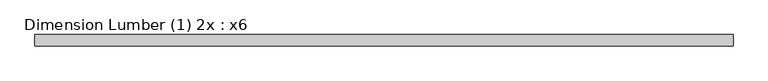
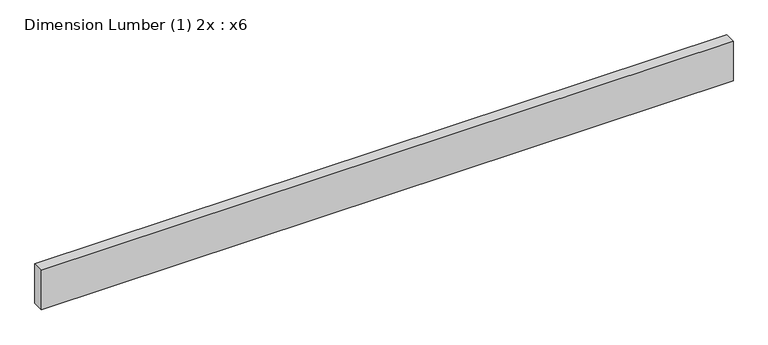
"""IFC4 building model written with IfcOpenShell, lengths in millimetres: beam geometry, Dimension Lumber (1) 2x : x6."""

from ifc_helpers import new_model, si_unit, frame, origin, place, context, project, spatial, polyline, outline, extrude, source, transform, mapped, element, save


def dimension_lumber_1_2x_x6_194c576a(model_context):
    return source(origin(), model_context, "Body", "SweptSolid", [
        extrude(outline(polyline([(1162.05, 19.05), (1162.05, -19.05), (-1162.05, -19.05), (-1162.05, 19.05), (1162.05, 19.05)])), frame((0.0, 0.0, -69.85), z_axis=(0.0, 0.0, 1.0), x_axis=(1.0, 0.0, 0.0)), (0.0, 0.0, 1.0), 139.7),
    ])


if __name__ == "__main__":
    model = new_model("IFC4")
    model_context = context("Model", 3, world=origin())
    ifc_project = project(units=[si_unit("LENGTHUNIT", "METRE", prefix="MILLI")], contexts=[model_context])
    site = spatial("IfcSite", under=ifc_project)
    building = spatial("IfcBuilding", under=site)
    placement = place(None, origin())
    dimension_lumber_1_2x_x6_shape = dimension_lumber_1_2x_x6_194c576a(model_context)
    element("IfcBeam", 1, ObjectType="Dimension Lumber (1) 2x : x6", at=placement, inside=building, context=model_context, shape_type="MappedRepresentation", body=[
        mapped(dimension_lumber_1_2x_x6_shape, transform((0.0, 0.0, 0.0), x_axis=(1.0, 0.0, 0.0), y_axis=(0.0, 1.0, 0.0), z_axis=(0.0, 0.0, 1.0))),
    ])
    save(model, "model.ifc")
